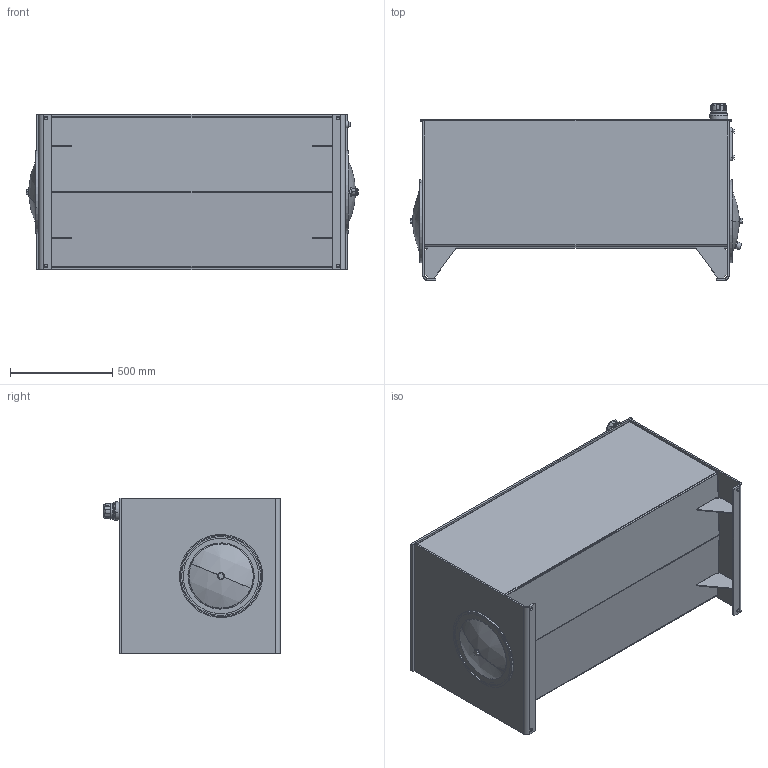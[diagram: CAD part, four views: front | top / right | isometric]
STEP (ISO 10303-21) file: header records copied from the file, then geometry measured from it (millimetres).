
FILE_DESCRIPTION (( 'STEP AP203' ), '1' );
FILE_NAME ('RJIC150-FT.STEP', '2015-01-07T16:42:22', ( '' ), ( '' ), 'SwSTEP 2.0', 'SolidWorks 2014', '' );
FILE_SCHEMA (( 'CONFIG_CONTROL_DESIGN' ));
Length unit declared in the file: inch
Products named in the file (1): RJIC150-FT
Bounding box: 1623.85 x 862.46 x 762 mm (x, y, z)
Volume: 34783911.3 mm3; surface area: 13209522.8 mm2
Topology: 19 solids, 19 shells, 608 faces, 1441 edges, 872 vertices
Faces by surface type: plane 233, cylinder 214, torus 63, bspline 48, sphere 32, cone 18
Entity records: 20350 total; most frequent: CARTESIAN_POINT 6207, DIRECTION 3056, ORIENTED_EDGE 2858, EDGE_CURVE 1429, AXIS2_PLACEMENT_3D 1202, VERTEX_POINT 872, EDGE_LOOP 683, LINE 652
